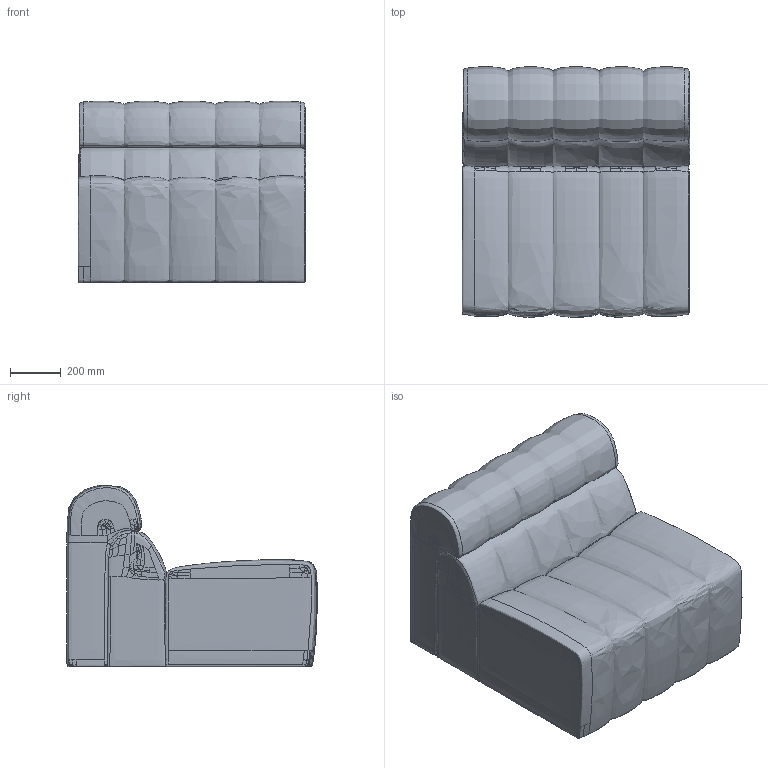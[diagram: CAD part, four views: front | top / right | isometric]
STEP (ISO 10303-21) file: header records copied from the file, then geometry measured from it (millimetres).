
FILE_DESCRIPTION(/* description */ (''),/* implementation_level */ '2;1');
FILE_NAME(/* name */ 'LOUNGE GS MATH 3.0',/* time_stamp */ '2025-11-18T13:16:31+01:00',/* author */ (''),/* organization */ (''),/* preprocessor_version */ 'ST-DEVELOPER v19.2',/* originating_system */ 'Rhino 8.1',/* authorisation */ '');
FILE_SCHEMA (('CONFIG_CONTROL_DESIGN'));
Length unit declared in the file: millimetre
Products named in the file (1): Document
Bounding box: 894.65 x 985.24 x 715.3 mm (x, y, z)
Volume: 150060663.6 mm3; surface area: 6506441.9 mm2
Topology: 2 solids, 2 shells, 600 faces, 1495 edges, 899 vertices
Faces by surface type: bspline 547, plane 53
Entity records: 60704 total; most frequent: CARTESIAN_POINT 51235, ORIENTED_EDGE 2990, EDGE_CURVE 1495, B_SPLINE_CURVE_WITH_KNOTS 1495, VERTEX_POINT 899, ADVANCED_FACE 600, FACE_OUTER_BOUND 600, EDGE_LOOP 600
